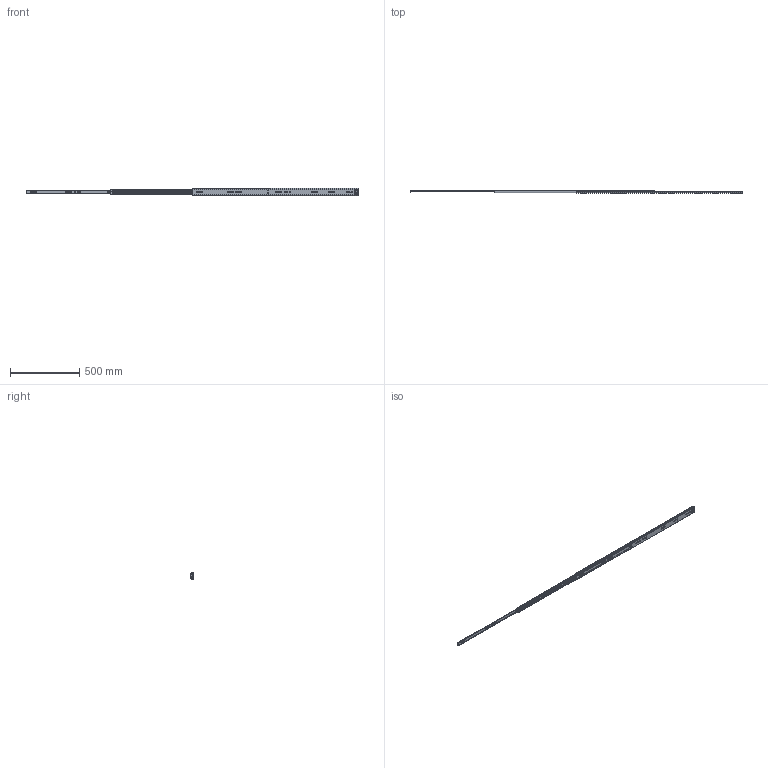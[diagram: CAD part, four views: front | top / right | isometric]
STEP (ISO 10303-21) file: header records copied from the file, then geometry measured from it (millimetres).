
FILE_DESCRIPTION((''),'2;1');
FILE_NAME('1053-02-48_ASM','2022-08-16T',('jishu015'),(''),'PRO/ENGINEER BY PARAMETRIC TECHNOLOGY CORPORATION, 2010280','PRO/ENGINEER BY PARAMETRIC TECHNOLOGY CORPORATION, 2010280','');
FILE_SCHEMA(('CONFIG_CONTROL_DESIGN'));
Products named in the file (16): 1053-02-48WAIKE; 1053WEIJIAO________; 53-WAIKEJIAO-48; 1053-02-48WAIKE_ASM; 1053ZHUTIAO-175________; 53-5-6GANZHU________; 1053ZHUTIAO-175MM_________ASM; 1053-02-18ZHONGGUI________; 53ZHIDIJIAO________; 1053-02-18ZHONGGUI_________ASM; 1053XIAOZHUJIA-14GE________; 1053XIAOZHUJIA-14GE_________ASM; 1053-02-18NEIGUI________; 53BACHA_______; 1053-02-18NEIGUI_________ASM; 1053-02-48_ASM
Assembly tree (129 placements, depth 3):
  1053-02-48_ASM
    1053-02-48WAIKE_ASM
      1053-02-48WAIKE
      1053WEIJIAO________
      53-WAIKEJIAO-48
    1053ZHUTIAO-175MM_________ASM  x2
      1053ZHUTIAO-175________
      53-5-6GANZHU________
    1053-02-18ZHONGGUI_________ASM
      1053-02-18ZHONGGUI________
      53ZHIDIJIAO________
    1053XIAOZHUJIA-14GE_________ASM
      1053XIAOZHUJIA-14GE________
      53-5-6GANZHU________  x92
    1053-02-18NEIGUI_________ASM
      1053-02-18NEIGUI________
      53BACHA_______
Bounding box: 2400 x 18.7 x 53 mm (x, y, z)
Volume: 457931.7 mm3; surface area: 528683 mm2
Topology: 146 solids, 152 shells, 3440 faces, 10019 edges, 6223 vertices
Faces by surface type: cylinder 1542, plane 1316, sphere 290, cone 140, bspline 118, torus 34
Entity records: 107966 total; most frequent: CARTESIAN_POINT 25285, ORIENTED_EDGE 17406, DIRECTION 17228, EDGE_CURVE 8775, AXIS2_PLACEMENT_3D 6021, VERTEX_POINT 5673, VECTOR 5186, LINE 5186
